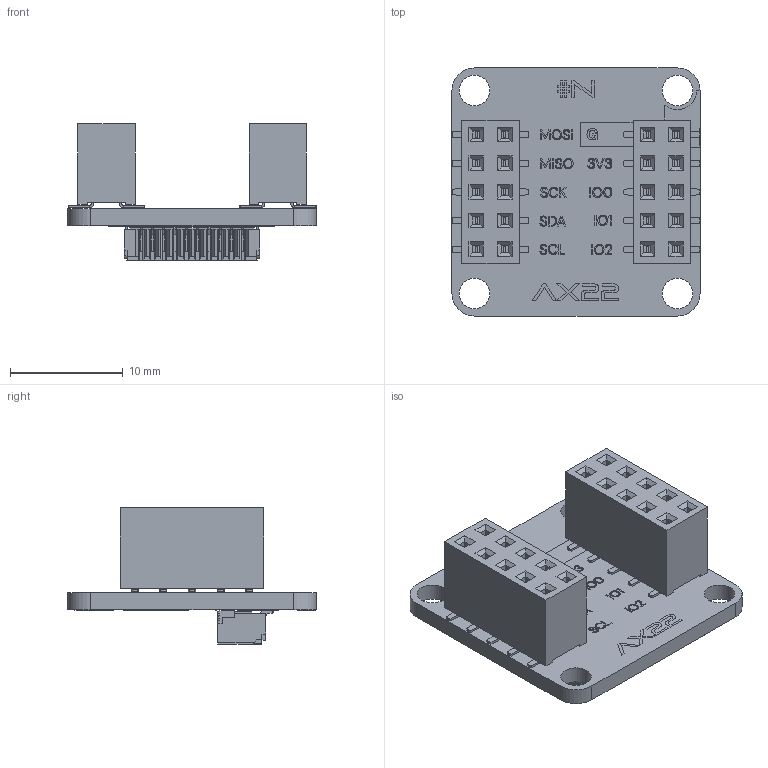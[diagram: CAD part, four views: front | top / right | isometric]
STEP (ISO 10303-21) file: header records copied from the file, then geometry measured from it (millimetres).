
FILE_DESCRIPTION(('KiCad electronic assembly'),'2;1');
FILE_NAME('AX22-0008.step','2025-12-05T16:16:27',('Pcbnew'),('Kicad'), 'Open CASCADE STEP processor 7.8','KiCad to STEP converter','Unknown' );
FILE_SCHEMA(('AUTOMOTIVE_DESIGN { 1 0 10303 214 1 1 1 1 }'));
Length unit declared in the file: millimetre
Products named in the file (5): AX22-0008 1; PinSocket_2x05_P2.54mm_Vertical_SMD; SM10B-SRSS-TB_LF__SN_; AX22-Extension_silkscreen; AX22-Extension_PCB
Assembly tree (5 placements, depth 2):
  AX22-0008 1
    PinSocket_2x05_P2.54mm_Vertical_SMD  x2
    SM10B-SRSS-TB_LF__SN_
    AX22-Extension_silkscreen
    AX22-Extension_PCB
Bounding box: 22 x 22 x 12.1 mm (x, y, z)
Volume: 1619.5 mm3; surface area: 2731.1 mm2
Topology: 16 solids, 115 shells, 1241 faces, 5935 edges, 4882 vertices
Faces by surface type: plane 1129, cylinder 112
Full cylindrical faces by diameter (mm): 2.7 x4
Entity records: 56371 total; most frequent: CARTESIAN_POINT 10474, DIRECTION 7710, ORIENTED_EDGE 7286, EDGE_CURVE 5151, LINE 4466, VECTOR 4466, VERTEX_POINT 4386, AXIS2_PLACEMENT_3D 1622
